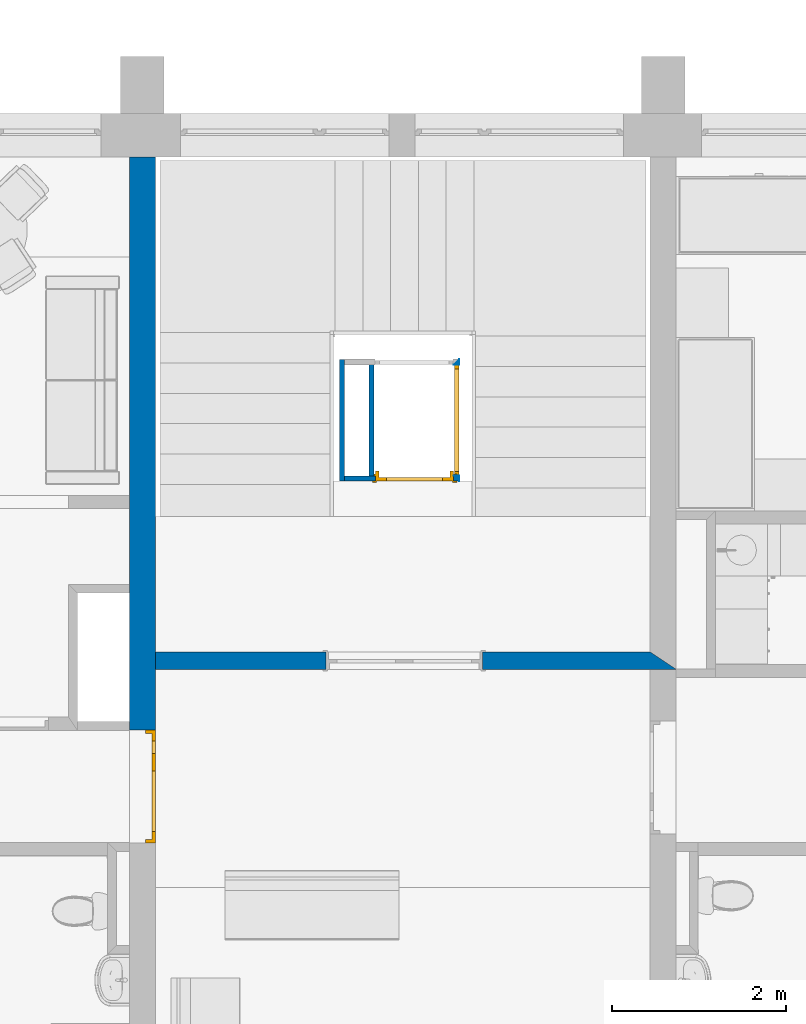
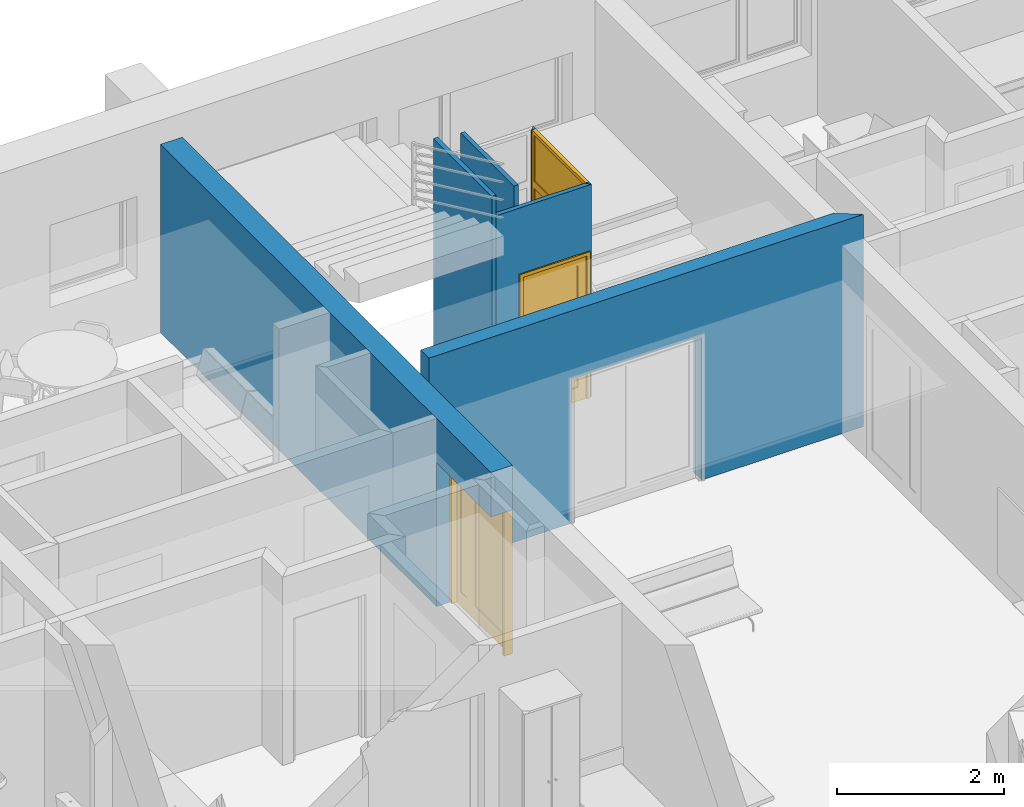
# One storey, part 13 of 172: 6 walls, 2 doors, 1 window, 4 openings.
"""IFC2X3 building model written with IfcOpenShell, lengths in millimetres."""

from ifc_helpers import new_model, entity, si_unit, converted_unit, money_unit, direction, frame, origin_with_axes, place, context, subcontext, project, spatial, polyline, outline, extrude, open_shell, faceted_brep, surface_model, source, transform, mapped, material, material_list, layer, layer_set, layer_usage, type_object, element, fill, save


model = new_model("IFC2X3")

# Units and contexts
model_context = context("Model", 3, precision=1e-05, world=origin_with_axes(), true_north=direction((0.0, 1.0)))
body_context = subcontext(model_context, "Body", "Model", "MODEL_VIEW")
ifc_project = project(units=[si_unit("LENGTHUNIT", "METRE", prefix="MILLI"), si_unit("AREAUNIT", "SQUARE_METRE"), si_unit("VOLUMEUNIT", "CUBIC_METRE"), converted_unit("PLANEANGLEUNIT", "DEGREE", entity("IfcPlaneAngleMeasure", 0.0174532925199), si_unit("PLANEANGLEUNIT", "RADIAN"), dimensions=[0, 0, 0, 0, 0, 0, 0]), si_unit("SOLIDANGLEUNIT", "STERADIAN"), money_unit("USD"), converted_unit("TIMEUNIT", "Year", entity("IfcTimeMeasure", 31556926.0), si_unit("TIMEUNIT", "SECOND"), dimensions=[0, 0, 0, 0, 0, 0, 0]), si_unit("MASSUNIT", "GRAM"), si_unit("THERMODYNAMICTEMPERATUREUNIT", "DEGREE_CELSIUS"), si_unit("LUMINOUSINTENSITYUNIT", "LUMEN")], contexts=[model_context])

# Site, building, storey
site_placement = place(None, origin_with_axes())
site = spatial("IfcSite", under=ifc_project, at=site_placement, Name="Site", CompositionType="ELEMENT")
building_placement = place(site_placement, origin_with_axes())
building = spatial("IfcBuilding", under=site, at=building_placement, Name="Building", CompositionType="ELEMENT")
storey_placement = place(building_placement, frame((0.0, 0.0, 3200.0), z_axis=(0.0, 0.0, 1.0), x_axis=(1.0, 0.0, 0.0)))
storey = spatial("IfcBuildingStorey", under=building, at=storey_placement, Name="3KORRUS", CompositionType="ELEMENT", Elevation=3200.0)

# Wall, opening, door
ifc_material_1 = material(Name="Olemasolevad seinad tellis, uus viimistlus")
ifc_layer_1 = layer(ifc_material_1, 300.0, ventilated="UNKNOWN")
ifc_layer_set_1 = layer_set([ifc_layer_1], Name="Olemasolevad seinad tellis, uus viimistlus  300")
ifc_layer_usage_1 = layer_usage(ifc_layer_set_1, "AXIS2", "POSITIVE", 0.0)
wall_type_1 = type_object("IfcWallType", Name="Olemasolevad seinad tellis, uus viimistlus  300", PredefinedType="NOTDEFINED")
wall_1_placement = place(storey_placement, frame((-11990.2967033, -13039.2398994, 0.0), z_axis=(0.0, 0.0, 1.0), x_axis=(0.0, 1.0, 0.0)))
wall_1 = element("IfcWallStandardCase", 1, at=wall_1_placement, inside=storey, type_object=wall_type_1, material=ifc_layer_usage_1, Name="KS1", ObjectType="KS1", context=body_context, shape_type="SweptSolid", body=[
    extrude(outline(polyline([(0.0, 0.0), (7899.63579061, 0.0), (7899.63579061, 300.0), (0.0, 300.0), (0.0, 0.0)])), origin_with_axes(), (0.0, 0.0, 1.0), 2750.0),
])
opening_1_placement = place(wall_1_placement, frame((650.0, 0.0, 0.0), z_axis=(0.0, 0.0, 1.0), x_axis=(1.0, 0.0, 0.0)))
opening_1 = element("IfcOpeningElement", 2, at=opening_1_placement, cuts=wall_1, Name="SU4-22", context=body_context, shape_type="SweptSolid", body=[
    extrude(outline(polyline([(-650.0, -2100.0), (650.0, -2100.0), (650.0, 0.0), (-650.0, 0.0), (-650.0, -2100.0)])), frame((0.0, 300.0, 0.0), z_axis=(0.0, -1.0, 0.0), x_axis=(-1.0, 0.0, 0.0)), (0.0, 0.0, 1.0), 900.0),
])
ifc_material_2 = material(Name="Background")
ifc_material_list = material_list([ifc_material_2])
door_style_1 = type_object("IfcDoorStyle", Name="Double Door Asymmetric 19", ConstructionType="NOTDEFINED", OperationType="DOUBLE_DOOR_SINGLE_SWING", ParameterTakesPrecedence=False, Sizeable=False)
shared_shape_1 = source(origin_with_axes(), body_context, "Body", "SurfaceModel", [
    faceted_brep([(-610.0, -40.0, 0.0), (-610.0, -40.0, 2060.0), (-610.0, -115.0, 2060.0), (-610.0, -115.0, 0.0), (-622.0, -40.0, 2060.0), (-622.0, -40.0, 0.0), (-622.0, 0.0, 2060.0), (-650.0, 0.0, 2060.0), (-650.0, -115.0, 2060.0), (-650.0, -115.0, 0.0), (-650.0, 0.0, 0.0), (-622.0, 0.0, 0.0)], [[[0, 1, 2, 3]], [[4, 1, 0, 5]], [[4, 6, 7, 8, 2, 1]], [[2, 8, 9, 3]], [[5, 0, 3, 9, 10, 11]], [[6, 4, 5, 11]], [[6, 11, 10, 7]], [[9, 8, 7, 10]]]),
    faceted_brep([(622.0, -40.0, 2060.0), (610.0, -40.0, 2060.0), (610.0, -115.0, 2060.0), (650.0, -115.0, 2060.0), (650.0, 0.0, 2060.0), (622.0, 0.0, 2060.0), (622.0, -40.0, 0.0), (610.0, -40.0, 0.0), (610.0, -115.0, 0.0), (650.0, -115.0, 0.0), (650.0, 0.0, 0.0), (622.0, 0.0, 0.0)], [[[0, 1, 2, 3, 4, 5]], [[1, 0, 6, 7]], [[1, 7, 8, 2]], [[2, 8, 9, 3]], [[3, 9, 10, 4]], [[11, 5, 4, 10]], [[0, 5, 11, 6]], [[6, 11, 10, 9, 8, 7]]]),
    faceted_brep([(-622.0, 0.0, 2072.0), (-622.0, 0.0, 2060.0), (-650.0, 0.0, 2060.0), (-650.0, 0.0, 2100.0), (650.0, 0.0, 2100.0), (650.0, 0.0, 2060.0), (622.0, 0.0, 2060.0), (622.0, 0.0, 2072.0), (-622.0, -40.0, 2072.0), (-622.0, -40.0, 2060.0), (-610.0, -40.0, 2060.0), (-610.0, -115.0, 2060.0), (-650.0, -115.0, 2060.0), (-650.0, -115.0, 2100.0), (650.0, -115.0, 2100.0), (650.0, -115.0, 2060.0), (622.0, -40.0, 2060.0), (610.0, -115.0, 2060.0), (610.0, -40.0, 2060.0), (622.0, -40.0, 2072.0)], [[[0, 1, 2, 3, 4, 5, 6, 7]], [[1, 0, 8, 9]], [[9, 10, 11, 12, 2, 1]], [[12, 13, 3, 2]], [[13, 14, 4, 3]], [[14, 15, 5, 4]], [[16, 6, 5, 15, 17, 18]], [[7, 6, 16, 19]], [[0, 7, 19, 8]], [[16, 18, 10, 9, 8, 19]], [[10, 18, 17, 11]], [[15, 14, 13, 12, 11, 17]]]),
    faceted_brep([(622.0, 0.0, 200.0), (622.0, -40.0, 200.0), (522.0, -40.0, 200.0), (522.0, 0.0, 200.0), (622.0, 0.0, 1972.0), (622.0, -40.0, 1972.0), (522.0, -40.0, 1972.0), (522.0, 0.0, 1972.0)], [[[0, 1, 2, 3]], [[4, 5, 1, 0]], [[1, 5, 6, 2]], [[3, 2, 6, 7]], [[0, 3, 7, 4]], [[7, 6, 5, 4]]]),
    faceted_brep([(-278.0, 0.0, 200.0), (-278.0, -40.0, 200.0), (-278.0, -40.0, 1972.0), (-278.0, 0.0, 1972.0), (-178.0, 0.0, 200.0), (-178.0, -40.0, 200.0), (-178.0, -40.0, 1972.0), (-178.0, 0.0, 1972.0)], [[[0, 1, 2, 3]], [[4, 5, 1, 0]], [[1, 5, 6, 2]], [[3, 2, 6, 7]], [[0, 3, 7, 4]], [[7, 6, 5, 4]]]),
    faceted_brep([(622.0, 0.0, 0.0), (622.0, -40.0, 0.0), (-278.0, -40.0, 0.0), (-278.0, 0.0, 0.0), (622.0, 0.0, 200.0), (622.0, -40.0, 200.0), (522.0, -40.0, 200.0), (-178.0, -40.0, 200.0), (-278.0, -40.0, 200.0), (-278.0, 0.0, 200.0), (-178.0, 0.0, 200.0), (522.0, 0.0, 200.0)], [[[0, 1, 2, 3]], [[4, 5, 1, 0]], [[1, 5, 6, 7, 8, 2]], [[3, 2, 8, 9]], [[0, 3, 9, 10, 11, 4]], [[11, 6, 5, 4]], [[10, 7, 6, 11]], [[9, 8, 7, 10]]]),
    faceted_brep([(622.0, 0.0, 2072.0), (622.0, -40.0, 2072.0), (622.0, -40.0, 1972.0), (622.0, 0.0, 1972.0), (-278.0, 0.0, 2072.0), (-278.0, -40.0, 2072.0), (-278.0, -40.0, 1972.0), (-178.0, -40.0, 1972.0), (522.0, -40.0, 1972.0), (522.0, 0.0, 1972.0), (-178.0, 0.0, 1972.0), (-278.0, 0.0, 1972.0)], [[[0, 1, 2, 3]], [[4, 5, 1, 0]], [[1, 5, 6, 7, 8, 2]], [[3, 2, 8, 9]], [[0, 3, 9, 10, 11, 4]], [[11, 6, 5, 4]], [[10, 7, 6, 11]], [[9, 8, 7, 10]]]),
    surface_model("IfcShellBasedSurfaceModel", [(522.0, -14.0, 200.0), (-178.0, -14.0, 200.0), (-178.0, -14.0, 1972.0), (522.0, -14.0, 1972.0)], [open_shell([[[0, 1, 2, 3]]])]),
    surface_model("IfcShellBasedSurfaceModel", [(522.0, -26.0, 200.0), (522.0, -26.0, 1972.0), (-178.0, -26.0, 1972.0), (-178.0, -26.0, 200.0)], [open_shell([[[0, 1, 2, 3]]])]),
    faceted_brep([(-622.0, 0.0, 200.0), (-522.0, 0.0, 200.0), (-522.0, -40.0, 200.0), (-622.0, -40.0, 200.0), (-622.0, 0.0, 1972.0), (-522.0, 0.0, 1972.0), (-522.0, -40.0, 1972.0), (-622.0, -40.0, 1972.0)], [[[0, 1, 2, 3]], [[0, 4, 5, 1]], [[1, 5, 6, 2]], [[3, 2, 6, 7]], [[4, 0, 3, 7]], [[5, 4, 7, 6]]]),
    faceted_brep([(-278.0, 0.0, 200.0), (-278.0, 0.0, 1972.0), (-278.0, -40.0, 1972.0), (-278.0, -40.0, 200.0), (-378.0, 0.0, 200.0), (-378.0, 0.0, 1972.0), (-378.0, -40.0, 1972.0), (-378.0, -40.0, 200.0)], [[[0, 1, 2, 3]], [[0, 4, 5, 1]], [[1, 5, 6, 2]], [[3, 2, 6, 7]], [[4, 0, 3, 7]], [[5, 4, 7, 6]]]),
    faceted_brep([(-622.0, 0.0, 0.0), (-278.0, 0.0, 0.0), (-278.0, -40.0, 0.0), (-622.0, -40.0, 0.0), (-622.0, 0.0, 200.0), (-522.0, 0.0, 200.0), (-378.0, 0.0, 200.0), (-278.0, 0.0, 200.0), (-278.0, -40.0, 200.0), (-378.0, -40.0, 200.0), (-522.0, -40.0, 200.0), (-622.0, -40.0, 200.0)], [[[0, 1, 2, 3]], [[0, 4, 5, 6, 7, 1]], [[1, 7, 8, 2]], [[3, 2, 8, 9, 10, 11]], [[4, 0, 3, 11]], [[5, 4, 11, 10]], [[6, 5, 10, 9]], [[7, 6, 9, 8]]]),
    faceted_brep([(-622.0, 0.0, 2072.0), (-622.0, 0.0, 1972.0), (-622.0, -40.0, 1972.0), (-622.0, -40.0, 2072.0), (-278.0, 0.0, 2072.0), (-278.0, 0.0, 1972.0), (-378.0, 0.0, 1972.0), (-522.0, 0.0, 1972.0), (-522.0, -40.0, 1972.0), (-378.0, -40.0, 1972.0), (-278.0, -40.0, 1972.0), (-278.0, -40.0, 2072.0)], [[[0, 1, 2, 3]], [[0, 4, 5, 6, 7, 1]], [[1, 7, 8, 2]], [[3, 2, 8, 9, 10, 11]], [[4, 0, 3, 11]], [[5, 4, 11, 10]], [[6, 5, 10, 9]], [[7, 6, 9, 8]]]),
    surface_model("IfcShellBasedSurfaceModel", [(-522.0, -14.0, 200.0), (-522.0, -14.0, 1972.0), (-378.0, -14.0, 1972.0), (-378.0, -14.0, 200.0)], [open_shell([[[0, 1, 2, 3]]])]),
    surface_model("IfcShellBasedSurfaceModel", [(-522.0, -26.0, 200.0), (-378.0, -26.0, 200.0), (-378.0, -26.0, 1972.0), (-522.0, -26.0, 1972.0)], [open_shell([[[0, 1, 2, 3]]])]),
])
door_1_placement = place(opening_1_placement, frame((650.0, 0.0, 0.0), z_axis=(0.0, 0.0, 1.0), x_axis=(-1.0, 0.0, 0.0)))
door_1 = element("IfcDoor", 3, at=door_1_placement, inside=storey, type_object=door_style_1, material=ifc_material_list, Name="SU4-22", ObjectType="Trepkoja uks", OverallHeight=2100.0, OverallWidth=1300.0, context=body_context, shape_type="MappedRepresentation", body=[
    mapped(shared_shape_1, transform((650.0, 0.0, 0.0))),
])
fill(opening_1, door_1)

# Wall, opening
ifc_layer_2 = layer(ifc_material_1, 200.0, ventilated="UNKNOWN")
ifc_layer_set_2 = layer_set([ifc_layer_2], Name="Olemasolevad seinad tellis, uus viimistlus  200")
ifc_layer_usage_2 = layer_usage(ifc_layer_set_2, "AXIS2", "POSITIVE", -200.0)
wall_type_2 = type_object("IfcWallType", Name="Olemasolevad seinad tellis, uus viimistlus  200", PredefinedType="NOTDEFINED")
wall_2_placement = place(storey_placement, frame((-5990.29670331, -11039.6041088, 0.0), z_axis=(0.0, 0.0, 1.0), x_axis=(-1.0, 0.0, 0.0)))
wall_2 = element("IfcWallStandardCase", 4, at=wall_2_placement, inside=storey, type_object=wall_type_2, material=ifc_layer_usage_2, Name="KS1", ObjectType="KS1", context=body_context, shape_type="SweptSolid", body=[
    extrude(outline(polyline([(300.0, -200.0), (5999.99999999, -200.0), (5999.99999999, 0.0), (0.0, 0.0), (300.0, -200.0)])), origin_with_axes(), (0.0, 0.0, 1.0), 3100.0),
])
opening_2_placement = place(wall_2_placement, frame((3133.31707985, 0.0, 0.0), z_axis=(0.0, 0.0, 1.0), x_axis=(1.0, 0.0, 0.0)))
element("IfcOpeningElement", 5, at=opening_2_placement, cuts=wall_2, Name="SU5", context=body_context, shape_type="SweptSolid", body=[
    extrude(outline(polyline([(-900.0, 0.0), (900.0, 0.0), (900.0, 2100.0), (-900.0, 2100.0), (-900.0, 0.0)])), frame((0.0, -200.0, 0.0), z_axis=(0.0, 1.0, 0.0), x_axis=(-1.0, 0.0, 0.0)), (0.0, 0.0, 1.0), 600.0),
    extrude(outline(polyline([(-937.0, 0.0), (-937.0, -2137.0), (937.0, -2137.0), (937.0, 0.0), (-937.0, 0.0)])), frame((0.0, -200.0, 0.0), z_axis=(0.0, -1.0, 0.0), x_axis=(-1.0, 0.0, 0.0)), (0.0, 0.0, 1.0), 200.0),
    extrude(outline(polyline([(-937.0, 2137.0), (-937.0, 0.0), (937.0, 0.0), (937.0, 2137.0), (-937.0, 2137.0)])), frame((0.0, 0.0, 0.0), z_axis=(0.0, 1.0, 0.0), x_axis=(-1.0, 0.0, 0.0)), (0.0, 0.0, 1.0), 200.0),
])

# Wall
ifc_material_3 = material(Name="Terasprofiil")
ifc_layer_3 = layer(ifc_material_3, 60.0, ventilated="UNKNOWN")
ifc_layer_set_3 = layer_set([ifc_layer_3], Name="Terasprofiil 60")
ifc_layer_usage_3 = layer_usage(ifc_layer_set_3, "AXIS2", "POSITIVE", -60.0)
wall_type_3 = type_object("IfcWallType", Name="Terasprofiil 60", PredefinedType="NOTDEFINED")
wall_3_placement = place(storey_placement, frame((-9469.40654634, -7470.64352695, 0.0), z_axis=(0.0, 0.0, 1.0), x_axis=(0.0, -1.0, 0.0)))
element("IfcWallStandardCase", 6, at=wall_3_placement, inside=storey, type_object=wall_type_3, material=ifc_layer_usage_3, Name="Lifti sein", ObjectType="Lifti sein", context=body_context, shape_type="SweptSolid", body=[
    extrude(outline(polyline([(60.0, -60.0), (1340.0, -60.0), (1340.0, 0.0), (60.0, 0.0), (60.0, -60.0)])), origin_with_axes(), (0.0, 0.0, 1.0), 3400.0),
])

# Wall, opening, window
ifc_layer_usage_4 = layer_usage(ifc_layer_set_3, "AXIS2", "POSITIVE", -60.0)
wall_4_placement = place(storey_placement, frame((-8491.93119318, -7470.64352695, 0.0), z_axis=(0.0, 0.0, 1.0), x_axis=(0.0, -1.0, 0.0)))
wall_4 = element("IfcWallStandardCase", 7, at=wall_4_placement, inside=storey, type_object=wall_type_3, material=ifc_layer_usage_4, Name="LS1", ObjectType="LIFTISAHTI SEIN", context=body_context, shape_type="SweptSolid", body=[
    extrude(outline(polyline([(60.0, -60.0), (1340.0, -60.0), (1400.0, 0.0), (0.0, 0.0), (60.0, -60.0)])), origin_with_axes(), (0.0, 0.0, 1.0), 3100.0),
])
opening_3_placement = place(wall_4_placement, frame((700.0, 0.0, 0.0), z_axis=(0.0, 0.0, 1.0), x_axis=(1.0, 0.0, 0.0)))
opening_3 = element("IfcOpeningElement", 8, at=opening_3_placement, cuts=wall_4, Name="Lifti klaassein", context=body_context, shape_type="SweptSolid", body=[
    extrude(outline(polyline([(640.0, -3100.0), (640.0, 0.0), (-640.0, 0.0), (-640.0, -3100.0), (640.0, -3100.0)])), frame((0.0, -60.0, 0.0), z_axis=(0.0, 1.0, 0.0), x_axis=(1.0, 0.0, 0.0)), (0.0, 0.0, 1.0), 180.0),
])
window_style = type_object("IfcWindowStyle", Name="Vertical Multi-Sash Window 19", ConstructionType="NOTDEFINED", OperationType="USERDEFINED", ParameterTakesPrecedence=False, Sizeable=False)
shared_shape_2 = source(origin_with_axes(), body_context, "Body", "SurfaceModel", [
    faceted_brep([(590.0, -50.0, 3050.0), (640.0, -50.0, 3050.0), (640.0, 0.0, 3050.0), (590.0, 0.0, 3050.0), (590.0, -50.0, 2375.0), (590.0, -50.0, 2275.0), (590.0, -50.0, 1600.0), (590.0, -50.0, 1500.0), (590.0, -50.0, 825.0), (590.0, -50.0, 725.0), (590.0, -50.0, 50.0), (640.0, -50.0, 50.0), (640.0, 0.0, 50.0), (590.0, 0.0, 50.0), (590.0, 0.0, 725.0), (590.0, 0.0, 825.0), (590.0, 0.0, 1500.0), (590.0, 0.0, 1600.0), (590.0, 0.0, 2275.0), (590.0, 0.0, 2375.0)], [[[0, 1, 2, 3]], [[0, 4, 5, 6, 7, 8, 9, 10, 11, 1]], [[1, 11, 12, 2]], [[3, 2, 12, 13, 14, 15, 16, 17, 18, 19]], [[4, 0, 3, 19]], [[5, 4, 19, 18]], [[6, 5, 18, 17]], [[7, 6, 17, 16]], [[8, 7, 16, 15]], [[9, 8, 15, 14]], [[10, 9, 14, 13]], [[11, 10, 13, 12]]]),
    faceted_brep([(-590.0, -50.0, 2375.0), (-590.0, -50.0, 2275.0), (-590.0, 0.0, 2275.0), (-590.0, 0.0, 2375.0), (-590.0, -50.0, 3050.0), (-640.0, -50.0, 3050.0), (-640.0, -50.0, 50.0), (-590.0, -50.0, 50.0), (-590.0, -50.0, 725.0), (-590.0, -50.0, 825.0), (-590.0, -50.0, 1500.0), (-590.0, -50.0, 1600.0), (-590.0, 0.0, 1600.0), (-590.0, 0.0, 1500.0), (-590.0, 0.0, 825.0), (-590.0, 0.0, 725.0), (-590.0, 0.0, 50.0), (-640.0, 0.0, 50.0), (-640.0, 0.0, 3050.0), (-590.0, 0.0, 3050.0)], [[[0, 1, 2, 3]], [[0, 4, 5, 6, 7, 8, 9, 10, 11, 1]], [[1, 11, 12, 2]], [[3, 2, 12, 13, 14, 15, 16, 17, 18, 19]], [[4, 0, 3, 19]], [[5, 4, 19, 18]], [[6, 5, 18, 17]], [[7, 6, 17, 16]], [[8, 7, 16, 15]], [[9, 8, 15, 14]], [[10, 9, 14, 13]], [[11, 10, 13, 12]]]),
    faceted_brep([(-590.0, -50.0, 3050.0), (-640.0, -50.0, 3050.0), (-640.0, 0.0, 3050.0), (-590.0, 0.0, 3050.0), (590.0, -50.0, 3050.0), (640.0, -50.0, 3050.0), (640.0, -50.0, 3100.0), (-640.0, -50.0, 3100.0), (-640.0, 0.0, 3100.0), (640.0, 0.0, 3100.0), (640.0, 0.0, 3050.0), (590.0, 0.0, 3050.0)], [[[0, 1, 2, 3]], [[0, 4, 5, 6, 7, 1]], [[1, 7, 8, 2]], [[3, 2, 8, 9, 10, 11]], [[4, 0, 3, 11]], [[5, 4, 11, 10]], [[6, 5, 10, 9]], [[7, 6, 9, 8]]]),
    faceted_brep([(590.0, -50.0, 50.0), (640.0, -50.0, 50.0), (640.0, 0.0, 50.0), (590.0, 0.0, 50.0), (-590.0, -50.0, 50.0), (-640.0, -50.0, 50.0), (-640.0, -50.0, 0.0), (640.0, -50.0, 0.0), (640.0, 0.0, 0.0), (-640.0, 0.0, 0.0), (-640.0, 0.0, 50.0), (-590.0, 0.0, 50.0)], [[[0, 1, 2, 3]], [[0, 4, 5, 6, 7, 1]], [[1, 7, 8, 2]], [[3, 2, 8, 9, 10, 11]], [[4, 0, 3, 11]], [[5, 4, 11, 10]], [[6, 5, 10, 9]], [[7, 6, 9, 8]]]),
    faceted_brep([(-590.0, -50.0, 825.0), (590.0, -50.0, 825.0), (590.0, 0.0, 825.0), (-590.0, 0.0, 825.0), (-590.0, -50.0, 725.0), (590.0, -50.0, 725.0), (590.0, 0.0, 725.0), (-590.0, 0.0, 725.0)], [[[0, 1, 2, 3]], [[0, 4, 5, 1]], [[1, 5, 6, 2]], [[3, 2, 6, 7]], [[4, 0, 3, 7]], [[5, 4, 7, 6]]]),
    faceted_brep([(-590.0, -50.0, 1600.0), (590.0, -50.0, 1600.0), (590.0, 0.0, 1600.0), (-590.0, 0.0, 1600.0), (-590.0, -50.0, 1500.0), (590.0, -50.0, 1500.0), (590.0, 0.0, 1500.0), (-590.0, 0.0, 1500.0)], [[[0, 1, 2, 3]], [[0, 4, 5, 1]], [[1, 5, 6, 2]], [[3, 2, 6, 7]], [[4, 0, 3, 7]], [[5, 4, 7, 6]]]),
    faceted_brep([(-590.0, -50.0, 2375.0), (590.0, -50.0, 2375.0), (590.0, 0.0, 2375.0), (-590.0, 0.0, 2375.0), (-590.0, -50.0, 2275.0), (590.0, -50.0, 2275.0), (590.0, 0.0, 2275.0), (-590.0, 0.0, 2275.0)], [[[0, 1, 2, 3]], [[0, 4, 5, 1]], [[1, 5, 6, 2]], [[3, 2, 6, 7]], [[4, 0, 3, 7]], [[5, 4, 7, 6]]]),
    surface_model("IfcShellBasedSurfaceModel", [(590.0, -35.0, 50.0), (590.0, -35.0, 725.0), (-590.0, -35.0, 725.0), (-590.0, -35.0, 50.0)], [open_shell([[[0, 1, 2, 3]]])]),
    surface_model("IfcShellBasedSurfaceModel", [(590.0, -15.0, 50.0), (-590.0, -15.0, 50.0), (-590.0, -15.0, 725.0), (590.0, -15.0, 725.0)], [open_shell([[[0, 1, 2, 3]]])]),
    surface_model("IfcShellBasedSurfaceModel", [(590.0, -35.0, 825.0), (590.0, -35.0, 1500.0), (-590.0, -35.0, 1500.0), (-590.0, -35.0, 825.0)], [open_shell([[[0, 1, 2, 3]]])]),
    surface_model("IfcShellBasedSurfaceModel", [(590.0, -15.0, 825.0), (-590.0, -15.0, 825.0), (-590.0, -15.0, 1500.0), (590.0, -15.0, 1500.0)], [open_shell([[[0, 1, 2, 3]]])]),
    surface_model("IfcShellBasedSurfaceModel", [(590.0, -35.0, 1600.0), (590.0, -35.0, 2275.0), (-590.0, -35.0, 2275.0), (-590.0, -35.0, 1600.0)], [open_shell([[[0, 1, 2, 3]]])]),
    surface_model("IfcShellBasedSurfaceModel", [(590.0, -15.0, 1600.0), (-590.0, -15.0, 1600.0), (-590.0, -15.0, 2275.0), (590.0, -15.0, 2275.0)], [open_shell([[[0, 1, 2, 3]]])]),
    surface_model("IfcShellBasedSurfaceModel", [(590.0, -35.0, 2375.0), (590.0, -35.0, 3050.0), (-590.0, -35.0, 3050.0), (-590.0, -35.0, 2375.0)], [open_shell([[[0, 1, 2, 3]]])]),
    surface_model("IfcShellBasedSurfaceModel", [(590.0, -15.0, 2375.0), (-590.0, -15.0, 2375.0), (-590.0, -15.0, 3050.0), (590.0, -15.0, 3050.0)], [open_shell([[[0, 1, 2, 3]]])]),
])
window_placement = place(opening_3_placement, frame((-640.0, 0.0, 0.0), z_axis=(0.0, 0.0, 1.0), x_axis=(1.0, 0.0, 0.0)))
window = element("IfcWindow", 9, at=window_placement, inside=storey, type_object=window_style, material=ifc_material_list, Name="Lifti klaassein", ObjectType="WINDOW", OverallHeight=3100.0, OverallWidth=1280.0, context=body_context, shape_type="MappedRepresentation", body=[
    mapped(shared_shape_2, transform((640.0, 0.0, 0.0))),
])
fill(opening_3, window)

# Wall
ifc_layer_usage_5 = layer_usage(ifc_layer_set_3, "AXIS2", "POSITIVE", 0.0)
wall_5_placement = place(storey_placement, frame((-9869.40654634, -7470.64352695, 0.0), z_axis=(0.0, 0.0, 1.0), x_axis=(0.0, -1.0, 0.0)))
element("IfcWallStandardCase", 10, at=wall_5_placement, inside=storey, type_object=wall_type_3, material=ifc_layer_usage_5, Name="Lifti sein", ObjectType="Lifti sein", context=body_context, shape_type="SweptSolid", body=[
    extrude(outline(polyline([(0.0, 0.0), (1400.0, 0.0), (1400.0, 60.0), (0.0, 60.0), (0.0, 0.0)])), origin_with_axes(), (0.0, 0.0, 1.0), 3400.0),
])

# Wall, opening, door
ifc_layer_usage_6 = layer_usage(ifc_layer_set_3, "AXIS2", "POSITIVE", -60.0)
wall_6_placement = place(storey_placement, frame((-8491.93119318, -8870.64352695, 0.0), z_axis=(0.0, 0.0, 1.0), x_axis=(-1.0, 0.0, 0.0)))
wall_6 = element("IfcWallStandardCase", 11, at=wall_6_placement, inside=storey, type_object=wall_type_3, material=ifc_layer_usage_6, Name="LS1", ObjectType="LIFTISAHTI SEIN", context=body_context, shape_type="SweptSolid", body=[
    extrude(outline(polyline([(60.0, -60.0), (1317.47535316, -60.0), (1317.47535316, 0.0), (0.0, 0.0), (60.0, -60.0)])), origin_with_axes(), (0.0, 0.0, 1.0), 3100.0),
])
opening_4_placement = place(wall_6_placement, frame((512.692164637, 0.0, 0.0), z_axis=(0.0, 0.0, 1.0), x_axis=(1.0, 0.0, 0.0)))
opening_4 = element("IfcOpeningElement", 12, at=opening_4_placement, cuts=wall_6, Name="Liftiuks", context=body_context, shape_type="SweptSolid", body=[
    extrude(outline(polyline([(-450.0, -2100.0), (450.0, -2100.0), (450.0, 0.0), (-450.0, 0.0), (-450.0, -2100.0)])), frame((0.0, -60.0, 0.0), z_axis=(0.0, 1.0, 0.0), x_axis=(1.0, 0.0, 0.0)), (0.0, 0.0, 1.0), 180.0),
    extrude(outline(polyline([(-487.0, 2137.0), (-487.0, 0.0), (487.0, 0.0), (487.0, 2137.0), (-487.0, 2137.0)])), frame((0.0, -60.0, 0.0), z_axis=(0.0, -1.0, 0.0), x_axis=(1.0, 0.0, 0.0)), (0.0, 0.0, 1.0), 60.0),
    extrude(outline(polyline([(-487.0, 0.0), (-487.0, -2137.0), (487.0, -2137.0), (487.0, 0.0), (-487.0, 0.0)])), frame((0.0, 0.0, 0.0), z_axis=(0.0, 1.0, 0.0), x_axis=(1.0, 0.0, 0.0)), (0.0, 0.0, 1.0), 60.0),
])
door_style_2 = type_object("IfcDoorStyle", Name="Door 19", ConstructionType="NOTDEFINED", OperationType="SINGLE_SWING_RIGHT", ParameterTakesPrecedence=False, Sizeable=False)
shared_shape_3 = source(origin_with_axes(), body_context, "Body", "SurfaceModel", [
    faceted_brep([(-487.0, -79.0, 0.0), (-487.0, -60.0, 0.0), (-437.0, -60.0, 0.0), (-437.0, -79.0, 0.0), (-487.0, -79.0, 2137.0), (-487.0, -60.0, 2137.0), (-437.0, -60.0, 2087.0), (-437.0, -79.0, 2087.0)], [[[0, 1, 2, 3]], [[4, 5, 1, 0]], [[1, 5, 6, 2]], [[3, 2, 6, 7]], [[0, 3, 7, 4]], [[7, 6, 5, 4]]]),
    faceted_brep([(487.0, -79.0, 2137.0), (487.0, -60.0, 2137.0), (437.0, -60.0, 2087.0), (437.0, -79.0, 2087.0), (487.0, -79.0, 0.0), (487.0, -60.0, 0.0), (437.0, -60.0, 0.0), (437.0, -79.0, 0.0)], [[[0, 1, 2, 3]], [[4, 5, 1, 0]], [[1, 5, 6, 2]], [[3, 2, 6, 7]], [[0, 3, 7, 4]], [[7, 6, 5, 4]]]),
    faceted_brep([(-487.0, -79.0, 2137.0), (-487.0, -60.0, 2137.0), (-437.0, -60.0, 2087.0), (-437.0, -79.0, 2087.0), (487.0, -79.0, 2137.0), (487.0, -60.0, 2137.0), (437.0, -60.0, 2087.0), (437.0, -79.0, 2087.0)], [[[0, 1, 2, 3]], [[4, 5, 1, 0]], [[1, 5, 6, 2]], [[3, 2, 6, 7]], [[0, 3, 7, 4]], [[7, 6, 5, 4]]]),
    faceted_brep([(-487.0, 19.0, 0.0), (-437.0, 19.0, 0.0), (-437.0, 0.0, 0.0), (-487.0, 0.0, 0.0), (-487.0, 19.0, 2137.0), (-437.0, 19.0, 2087.0), (-437.0, 0.0, 2087.0), (-487.0, 0.0, 2137.0)], [[[0, 1, 2, 3]], [[0, 4, 5, 1]], [[1, 5, 6, 2]], [[3, 2, 6, 7]], [[4, 0, 3, 7]], [[5, 4, 7, 6]]]),
    faceted_brep([(487.0, 19.0, 2137.0), (437.0, 19.0, 2087.0), (437.0, 0.0, 2087.0), (487.0, 0.0, 2137.0), (487.0, 19.0, 0.0), (437.0, 19.0, 0.0), (437.0, 0.0, 0.0), (487.0, 0.0, 0.0)], [[[0, 1, 2, 3]], [[0, 4, 5, 1]], [[1, 5, 6, 2]], [[3, 2, 6, 7]], [[4, 0, 3, 7]], [[5, 4, 7, 6]]]),
    faceted_brep([(-487.0, 19.0, 2137.0), (-437.0, 19.0, 2087.0), (-437.0, 0.0, 2087.0), (-487.0, 0.0, 2137.0), (487.0, 19.0, 2137.0), (437.0, 19.0, 2087.0), (437.0, 0.0, 2087.0), (487.0, 0.0, 2137.0)], [[[0, 1, 2, 3]], [[0, 4, 5, 1]], [[1, 5, 6, 2]], [[3, 2, 6, 7]], [[4, 0, 3, 7]], [[5, 4, 7, 6]]]),
    faceted_brep([(-410.0, -40.0, 0.0), (-410.0, -40.0, 2060.0), (-410.0, -115.0, 2060.0), (-410.0, -115.0, 0.0), (-422.0, -40.0, 2060.0), (-422.0, -40.0, 0.0), (-422.0, 0.0, 2060.0), (-450.0, 0.0, 2060.0), (-450.0, -115.0, 2060.0), (-450.0, -115.0, 0.0), (-450.0, 0.0, 0.0), (-422.0, 0.0, 0.0)], [[[0, 1, 2, 3]], [[4, 1, 0, 5]], [[4, 6, 7, 8, 2, 1]], [[2, 8, 9, 3]], [[5, 0, 3, 9, 10, 11]], [[6, 4, 5, 11]], [[6, 11, 10, 7]], [[9, 8, 7, 10]]]),
    faceted_brep([(422.0, -40.0, 2060.0), (410.0, -40.0, 2060.0), (410.0, -115.0, 2060.0), (450.0, -115.0, 2060.0), (450.0, 0.0, 2060.0), (422.0, 0.0, 2060.0), (422.0, -40.0, 0.0), (410.0, -40.0, 0.0), (410.0, -115.0, 0.0), (450.0, -115.0, 0.0), (450.0, 0.0, 0.0), (422.0, 0.0, 0.0)], [[[0, 1, 2, 3, 4, 5]], [[1, 0, 6, 7]], [[1, 7, 8, 2]], [[2, 8, 9, 3]], [[3, 9, 10, 4]], [[11, 5, 4, 10]], [[0, 5, 11, 6]], [[6, 11, 10, 9, 8, 7]]]),
    faceted_brep([(-422.0, 0.0, 2072.0), (-422.0, 0.0, 2060.0), (-450.0, 0.0, 2060.0), (-450.0, 0.0, 2100.0), (450.0, 0.0, 2100.0), (450.0, 0.0, 2060.0), (422.0, 0.0, 2060.0), (422.0, 0.0, 2072.0), (-422.0, -40.0, 2072.0), (-422.0, -40.0, 2060.0), (-410.0, -40.0, 2060.0), (-410.0, -115.0, 2060.0), (-450.0, -115.0, 2060.0), (-450.0, -115.0, 2100.0), (450.0, -115.0, 2100.0), (450.0, -115.0, 2060.0), (422.0, -40.0, 2060.0), (410.0, -115.0, 2060.0), (410.0, -40.0, 2060.0), (422.0, -40.0, 2072.0)], [[[0, 1, 2, 3, 4, 5, 6, 7]], [[1, 0, 8, 9]], [[9, 10, 11, 12, 2, 1]], [[12, 13, 3, 2]], [[13, 14, 4, 3]], [[14, 15, 5, 4]], [[16, 6, 5, 15, 17, 18]], [[7, 6, 16, 19]], [[0, 7, 19, 8]], [[16, 18, 10, 9, 8, 19]], [[10, 18, 17, 11]], [[15, 14, 13, 12, 11, 17]]]),
    faceted_brep([(422.0, 0.0, 200.0), (422.0, -40.0, 200.0), (322.0, -40.0, 200.0), (322.0, 0.0, 200.0), (422.0, 0.0, 1972.0), (422.0, -40.0, 1972.0), (322.0, -40.0, 1972.0), (322.0, 0.0, 1972.0)], [[[0, 1, 2, 3]], [[4, 5, 1, 0]], [[1, 5, 6, 2]], [[3, 2, 6, 7]], [[0, 3, 7, 4]], [[7, 6, 5, 4]]]),
    faceted_brep([(-422.0, 0.0, 200.0), (-422.0, -40.0, 200.0), (-422.0, -40.0, 1972.0), (-422.0, 0.0, 1972.0), (-322.0, 0.0, 200.0), (-322.0, -40.0, 200.0), (-322.0, -40.0, 1972.0), (-322.0, 0.0, 1972.0)], [[[0, 1, 2, 3]], [[4, 5, 1, 0]], [[1, 5, 6, 2]], [[3, 2, 6, 7]], [[0, 3, 7, 4]], [[7, 6, 5, 4]]]),
    faceted_brep([(422.0, 0.0, 0.0), (422.0, -40.0, 0.0), (-422.0, -40.0, 0.0), (-422.0, 0.0, 0.0), (422.0, 0.0, 200.0), (422.0, -40.0, 200.0), (322.0, -40.0, 200.0), (-322.0, -40.0, 200.0), (-422.0, -40.0, 200.0), (-422.0, 0.0, 200.0), (-322.0, 0.0, 200.0), (322.0, 0.0, 200.0)], [[[0, 1, 2, 3]], [[4, 5, 1, 0]], [[1, 5, 6, 7, 8, 2]], [[3, 2, 8, 9]], [[0, 3, 9, 10, 11, 4]], [[11, 6, 5, 4]], [[10, 7, 6, 11]], [[9, 8, 7, 10]]]),
    faceted_brep([(422.0, 0.0, 2072.0), (422.0, -40.0, 2072.0), (422.0, -40.0, 1972.0), (422.0, 0.0, 1972.0), (-422.0, 0.0, 2072.0), (-422.0, -40.0, 2072.0), (-422.0, -40.0, 1972.0), (-322.0, -40.0, 1972.0), (322.0, -40.0, 1972.0), (322.0, 0.0, 1972.0), (-322.0, 0.0, 1972.0), (-422.0, 0.0, 1972.0)], [[[0, 1, 2, 3]], [[4, 5, 1, 0]], [[1, 5, 6, 7, 8, 2]], [[3, 2, 8, 9]], [[0, 3, 9, 10, 11, 4]], [[11, 6, 5, 4]], [[10, 7, 6, 11]], [[9, 8, 7, 10]]]),
    surface_model("IfcShellBasedSurfaceModel", [(322.0, -14.0, 200.0), (-322.0, -14.0, 200.0), (-322.0, -14.0, 1972.0), (322.0, -14.0, 1972.0)], [open_shell([[[0, 1, 2, 3]]])]),
    surface_model("IfcShellBasedSurfaceModel", [(322.0, -26.0, 200.0), (322.0, -26.0, 1972.0), (-322.0, -26.0, 1972.0), (-322.0, -26.0, 200.0)], [open_shell([[[0, 1, 2, 3]]])]),
])
door_2_placement = place(opening_4_placement, frame((-450.0, 0.0, 0.0), z_axis=(0.0, 0.0, 1.0), x_axis=(1.0, 0.0, 0.0)))
door_2 = element("IfcDoor", 13, at=door_2_placement, inside=storey, type_object=door_style_2, material=ifc_material_list, Name="Liftiuks", ObjectType="door", OverallHeight=2100.0, OverallWidth=900.0, context=body_context, shape_type="MappedRepresentation", body=[
    mapped(shared_shape_3, transform((450.0, 0.0, 0.0))),
])
fill(opening_4, door_2)

save(model, "model.ifc")
